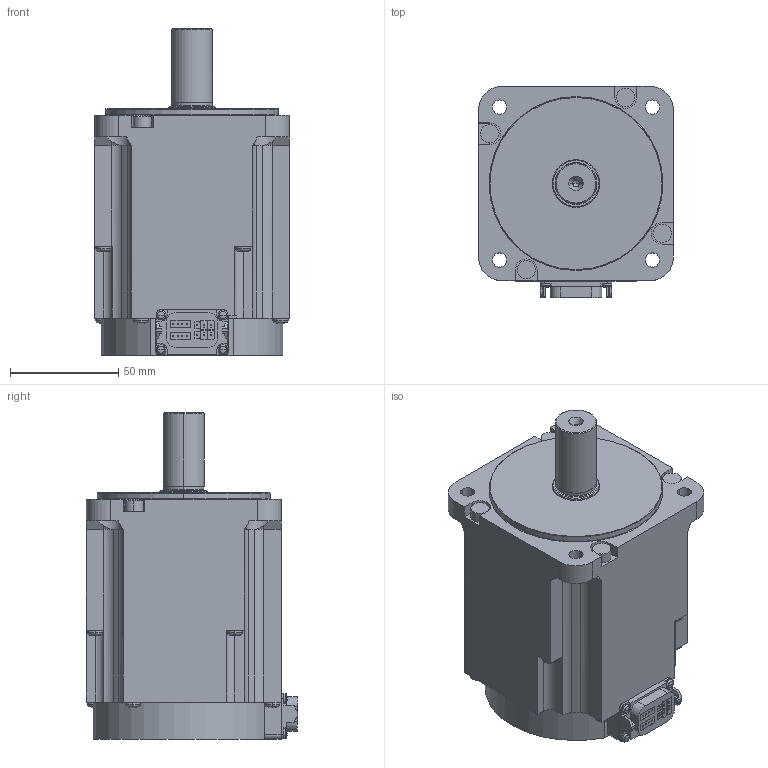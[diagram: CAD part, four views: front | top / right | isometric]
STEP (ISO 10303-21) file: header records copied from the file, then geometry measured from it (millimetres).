
FILE_DESCRIPTION((''),'2;1');
FILE_NAME('HK-KT7M3UWB_A','2019-09-18T',('pc0000'),(''),'CREO PARAMETRIC BY PTC INC, 2018220','CREO PARAMETRIC BY PTC INC, 2018220','');
FILE_SCHEMA(('CONFIG_CONTROL_DESIGN'));
Length unit declared in the file: millimetre
Products named in the file (1): HK-KT7M3UWB_A
Bounding box: 90 x 97.65 x 151 mm (x, y, z)
Volume: 786853.4 mm3; surface area: 58212.8 mm2
Topology: 1 solids, 1 shells, 417 faces, 1070 edges, 673 vertices
Faces by surface type: plane 224, cylinder 121, torus 28, sphere 24, cone 20
Entity records: 12579 total; most frequent: CARTESIAN_POINT 2262, DIRECTION 2205, ORIENTED_EDGE 2088, EDGE_CURVE 1044, AXIS2_PLACEMENT_3D 760, VECTOR 685, LINE 685, VERTEX_POINT 673
